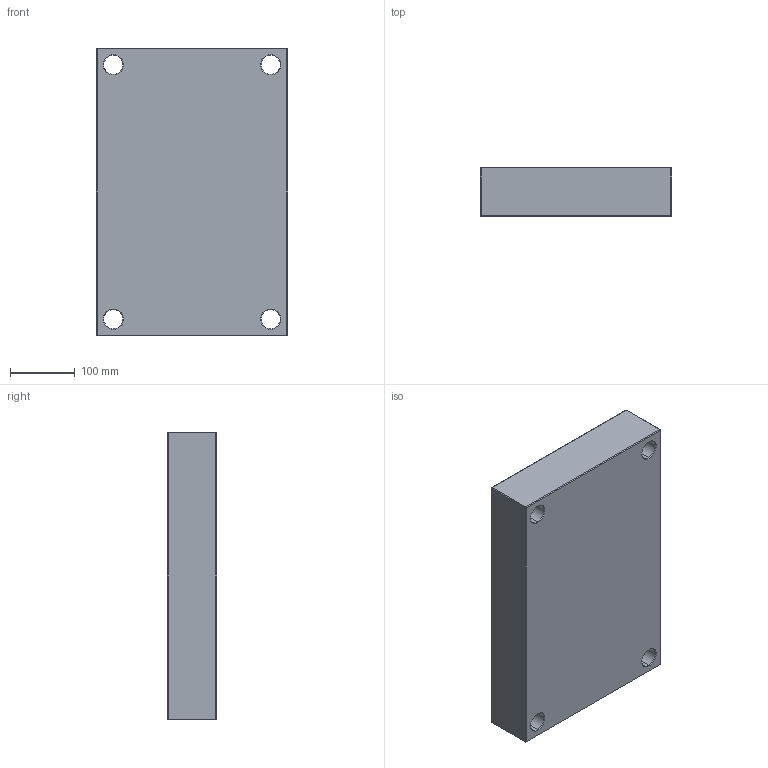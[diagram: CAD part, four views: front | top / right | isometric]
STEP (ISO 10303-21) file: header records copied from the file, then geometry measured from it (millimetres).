
FILE_DESCRIPTION (( 'STEP AP214' ), '1' );
FILE_NAME ('PCX-296x446x76.STEP', '2020-05-04T08:27:34', ( 'August' ), ( '' ), 'SwSTEP 2.0', 'SolidWorks 2018', '' );
FILE_SCHEMA (( 'AUTOMOTIVE_DESIGN' ));
Length unit declared in the file: millimetre
Products named in the file (1): PCX-296x446x76
Bounding box: 296 x 76 x 446 mm (x, y, z)
Volume: 9805310.6 mm3; surface area: 401131.1 mm2
Topology: 1 solids, 1 shells, 82 faces, 168 edges, 96 vertices
Faces by surface type: plane 34, cone 24, cylinder 24
Entity records: 2170 total; most frequent: DIRECTION 406, CARTESIAN_POINT 347, ORIENTED_EDGE 336, EDGE_CURVE 168, AXIS2_PLACEMENT_3D 155, EDGE_LOOP 98, VERTEX_POINT 96, LINE 96
